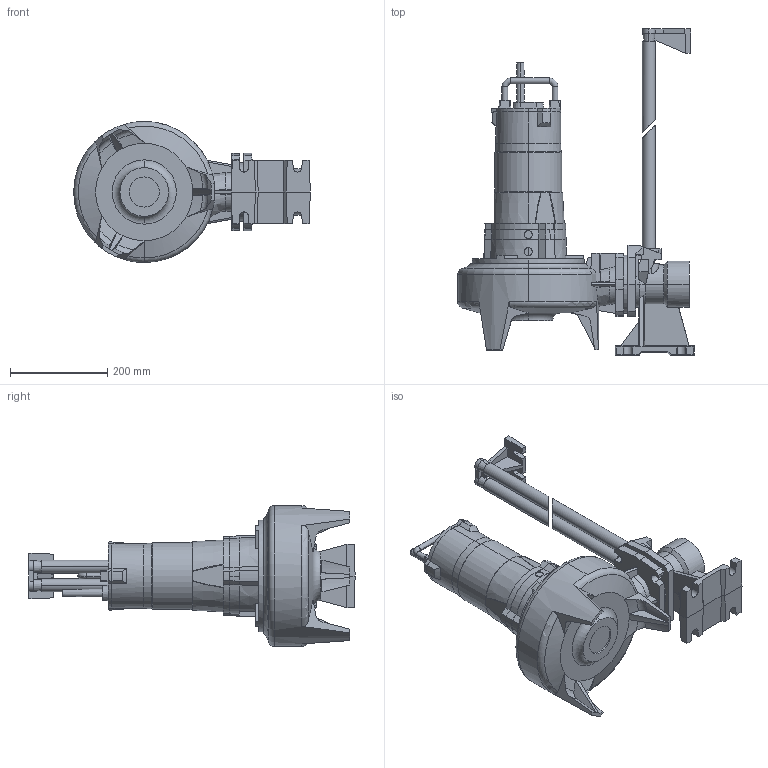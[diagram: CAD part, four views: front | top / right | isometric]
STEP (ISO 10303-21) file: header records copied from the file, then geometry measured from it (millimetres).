
FILE_DESCRIPTION (( 'STEP AP203' ), '1' );
FILE_NAME ('65FWC-M-52 COUPLING SYSTEM.STEP', '2025-03-22T09:01:05', ( '' ), ( '' ), 'SwSTEP 2.0', 'SolidWorks 2023', '' );
FILE_SCHEMA (( 'CONFIG_CONTROL_DESIGN' ));
Length unit declared in the file: millimetre
Products named in the file (1): 65FWC-M-52 COUPLING SYSTEM
Bounding box: 486.27 x 670.22 x 290 mm (x, y, z)
Volume: 14389780.5 mm3; surface area: 820351 mm2
Topology: 2 solids, 3 shells, 527 faces, 1407 edges, 910 vertices
Faces by surface type: plane 288, cylinder 112, cone 85, torus 25, bspline 17
Entity records: 18001 total; most frequent: CARTESIAN_POINT 5257, ORIENTED_EDGE 2814, DIRECTION 2477, EDGE_CURVE 1407, VERTEX_POINT 910, AXIS2_PLACEMENT_3D 885, LINE 707, VECTOR 707
